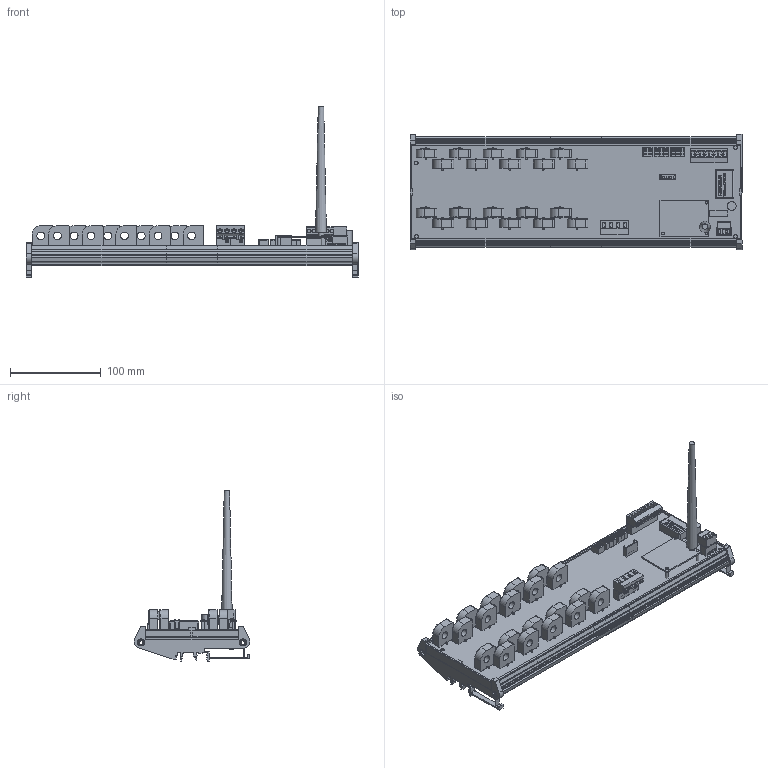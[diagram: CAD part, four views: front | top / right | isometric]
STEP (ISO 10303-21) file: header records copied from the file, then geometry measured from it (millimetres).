
FILE_DESCRIPTION(('FreeCAD Model'),'2;1');
FILE_NAME('C:/3D Files/Stringhe/ST0HS/ST0HS20xx WR/ST0HS20xx WR.step', '2023-01-13T12:16:16',('Author'),(''), 'Open CASCADE STEP processor 7.3','FreeCAD','Unknown');
FILE_SCHEMA(('AUTOMOTIVE_DESIGN { 1 0 10303 214 1 1 1 1 }'));
Length unit declared in the file: millimetre
Products named in the file (45): ST0HS20xx_WR; AmpModu_6P_M; DipSwitch4; IB2405LS-1W; WRB2403ZP-6WR003; ELNA_470_uF_35_V; Mstb_03P_F; Mstb_03Pc_M; SH04-7,62; PV02-7,62-V-Pa; PV02-7,62-V-Pb; Mstb_8P_F; Mstb_8Pc_M; CHK-LSP5S2L-BP-CH_01; CHK-LSP5S2L-BP-CH_02; CHK-LSP5S2L-BP-CH_03; CHK-LSP5S2L-BP-CH_04; CHK-LSP5S2L-BP-CH_05; CHK-LSP5S2L-BP-CH_06; CHK-LSP5S2L-BP-CH_07; CHK-LSP5S2L-BP-CH_08; CHK-LSP5S2L-BP-CH_09; CHK-LSP5S2L-BP-CH_10; CHK-LSP5S2L-BP-CH_11; CHK-LSP5S2L-BP-CH_12; CHK-LSP5S2L-BP-CH_13; CHK-LSP5S2L-BP-CH_14; CHK-LSP5S2L-BP-CH_15; CHK-LSP5S2L-BP-CH_16; CHK-LSP5S2L-BP-CH_17; CHK-LSP5S2L-BP-CH_18; CHK-LSP5S2L-BP-CH_19; CHK-LSP5S2L-BP-CH_20; DipSwitch005; DipSwitch006; DipSwitch007; DipSwitch008; Spacer-001; Spacer-002; Spacer-003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
Assembly tree (44 placements, depth 2):
  ST0HS20xx_WR
    AmpModu_6P_M
    DipSwitch4
    IB2405LS-1W
    WRB2403ZP-6WR003
    ELNA_470_uF_35_V
    Mstb_03P_F
    Mstb_03Pc_M
    SH04-7,62
    PV02-7,62-V-Pa
    PV02-7,62-V-Pb
    Mstb_8P_F
    Mstb_8Pc_M
    CHK-LSP5S2L-BP-CH_01
    CHK-LSP5S2L-BP-CH_02
    CHK-LSP5S2L-BP-CH_03
    CHK-LSP5S2L-BP-CH_04
    CHK-LSP5S2L-BP-CH_05
    CHK-LSP5S2L-BP-CH_06
    CHK-LSP5S2L-BP-CH_07
    CHK-LSP5S2L-BP-CH_08
    CHK-LSP5S2L-BP-CH_09
    CHK-LSP5S2L-BP-CH_10
    CHK-LSP5S2L-BP-CH_11
    CHK-LSP5S2L-BP-CH_12
    CHK-LSP5S2L-BP-CH_13
    CHK-LSP5S2L-BP-CH_14
    CHK-LSP5S2L-BP-CH_15
    CHK-LSP5S2L-BP-CH_16
    CHK-LSP5S2L-BP-CH_17
    CHK-LSP5S2L-BP-CH_18
    CHK-LSP5S2L-BP-CH_19
    CHK-LSP5S2L-BP-CH_20
    DipSwitch005
    DipSwitch006
    DipSwitch007
    DipSwitch008
    Spacer-001
    Spacer-002
    Spacer-003
    Antenna
    Base_Antenna
    E108_Module
    Profilo_366,2x128
    Stampato_362,2_x_108
Bounding box: 366.2 x 127.59 x 188.79 mm (x, y, z)
Volume: 343742.5 mm3; surface area: 365183.8 mm2
Topology: 59 solids, 98 shells, 6381 faces, 22686 edges, 32436 vertices
Faces by surface type: plane 4752, cylinder 1068, bspline 292, torus 196, cone 42, sphere 28, extrusion 3
Full cylindrical faces by diameter (mm): 0.5 x4, 0.75 x52, 1 x10, 1.5 x8, 1.6 x7, 3.1 x3, 3.8 x4, 4 x19, 4.3 x4, 6 x1, 7.9 x4, 9.202 x4, 10 x1
Entity records: 512098 total; most frequent: CARTESIAN_POINT 131107, DIRECTION 65218, VECTOR 45282, LINE 45279, ORIENTED_EDGE 34117, PCURVE 34117, DEFINITIONAL_REPRESENTATION 34117, EDGE_CURVE 17421
